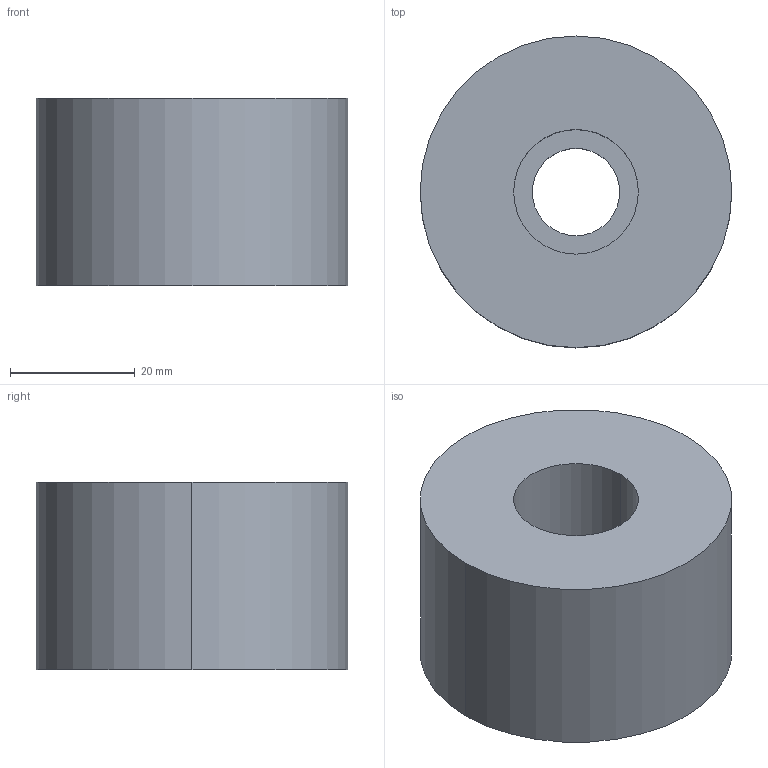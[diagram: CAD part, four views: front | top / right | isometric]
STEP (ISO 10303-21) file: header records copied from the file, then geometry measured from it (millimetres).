
FILE_DESCRIPTION(/* description */ (''),/* implementation_level */ '2;1');
FILE_NAME(/* name */ '3d_azn50-30_03252_r00.stp',/* time_stamp */ '2011-01-10T14:17:33+09:00',/* author */ ('MISUMI'),/* organization */ (''),/* preprocessor_version */ 'ST-DEVELOPER v11',/* originating_system */ 'UGS - NX 5.0',/* authorisation */ '');
FILE_SCHEMA (('CONFIG_CONTROL_DESIGN'));
Length unit declared in the file: millimetre
Products named in the file (1): 3d_azn50-30_03252_r00
Bounding box: 50 x 50 x 30 mm (x, y, z)
Volume: 51082.3 mm3; surface area: 10028 mm2
Topology: 1 solids, 1 shells, 9 faces, 18 edges, 12 vertices
Faces by surface type: cylinder 6, plane 3
Entity records: 334 total; most frequent: DIRECTION 50, CARTESIAN_POINT 40, ORIENTED_EDGE 36, AXIS2_PLACEMENT_3D 22, EDGE_CURVE 18, EDGE_LOOP 12, VERTEX_POINT 12, CIRCLE 12
